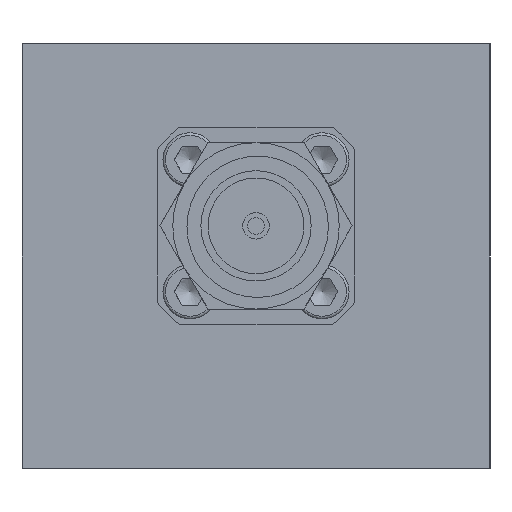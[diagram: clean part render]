
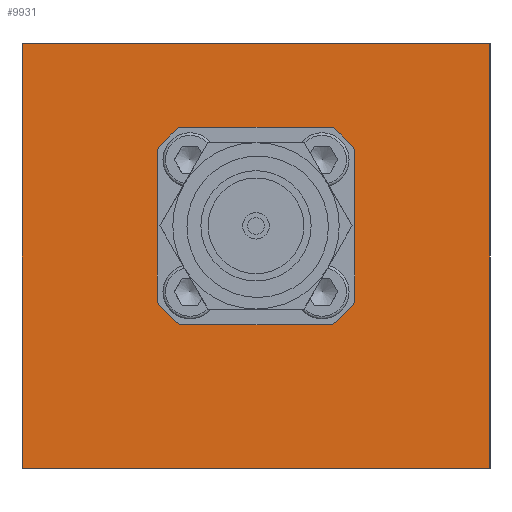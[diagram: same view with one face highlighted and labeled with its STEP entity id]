
A CAD part, left-side view. The second image highlights one B-rep face of the part: STEP entity #9931.
In plain terms, the highlighted planar face has unit normal (-1, 0, 0).
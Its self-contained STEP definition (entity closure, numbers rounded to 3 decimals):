
#330=CIRCLE('',#10451,6.);
#331=CIRCLE('',#10452,6.);
#332=CIRCLE('',#10453,6.);
#333=CIRCLE('',#10454,6.);
#636=ORIENTED_EDGE('',*,*,#2329,.F.);
#637=ORIENTED_EDGE('',*,*,#2330,.F.);
#638=ORIENTED_EDGE('',*,*,#2331,.F.);
#639=ORIENTED_EDGE('',*,*,#2332,.F.);
#640=ORIENTED_EDGE('',*,*,#2333,.F.);
#641=ORIENTED_EDGE('',*,*,#2334,.F.);
#642=ORIENTED_EDGE('',*,*,#2335,.F.);
#643=ORIENTED_EDGE('',*,*,#2336,.F.);
#644=ORIENTED_EDGE('',*,*,#2337,.F.);
#645=ORIENTED_EDGE('',*,*,#2338,.F.);
#646=ORIENTED_EDGE('',*,*,#2327,.T.);
#647=ORIENTED_EDGE('',*,*,#2321,.F.);
#2321=EDGE_CURVE('',#3170,#3171,#3817,.T.);
#2327=EDGE_CURVE('',#3176,#3171,#3819,.T.);
#2329=EDGE_CURVE('',#3177,#3178,#330,.T.);
#2330=EDGE_CURVE('',#3179,#3177,#3821,.T.);
#2331=EDGE_CURVE('',#3180,#3179,#331,.T.);
#2332=EDGE_CURVE('',#3181,#3180,#3822,.T.);
#2333=EDGE_CURVE('',#3182,#3181,#332,.T.);
#2334=EDGE_CURVE('',#3183,#3182,#3823,.T.);
#2335=EDGE_CURVE('',#3184,#3183,#333,.T.);
#2336=EDGE_CURVE('',#3178,#3184,#3824,.T.);
#2337=EDGE_CURVE('',#3185,#3170,#3825,.T.);
#2338=EDGE_CURVE('',#3176,#3185,#3826,.T.);
#3170=VERTEX_POINT('',#13278);
#3171=VERTEX_POINT('',#13280);
#3176=VERTEX_POINT('',#13292);
#3177=VERTEX_POINT('',#13296);
#3178=VERTEX_POINT('',#13297);
#3179=VERTEX_POINT('',#13299);
#3180=VERTEX_POINT('',#13301);
#3181=VERTEX_POINT('',#13303);
#3182=VERTEX_POINT('',#13305);
#3183=VERTEX_POINT('',#13307);
#3184=VERTEX_POINT('',#13309);
#3185=VERTEX_POINT('',#13312);
#3817=LINE('',#13279,#4325);
#3819=LINE('',#13291,#4327);
#3821=LINE('',#13298,#4329);
#3822=LINE('',#13302,#4330);
#3823=LINE('',#13306,#4331);
#3824=LINE('',#13310,#4332);
#3825=LINE('',#13311,#4333);
#3826=LINE('',#13313,#4334);
#4325=VECTOR('',#11245,1000.);
#4327=VECTOR('',#11257,1000.);
#4329=VECTOR('',#11263,1000.);
#4330=VECTOR('',#11266,1000.);
#4331=VECTOR('',#11269,1000.);
#4332=VECTOR('',#11272,1000.);
#4333=VECTOR('',#11273,1000.);
#4334=VECTOR('',#11274,1000.);
#4848=EDGE_LOOP('',(#636,#637,#638,#639,#640,#641,#642,#643));
#4849=EDGE_LOOP('',(#644,#645,#646,#647));
#5576=FACE_BOUND('',#4848,.T.);
#5577=FACE_BOUND('',#4849,.T.);
#6301=PLANE('',#10450);
#9931=ADVANCED_FACE('',(#5576,#5577),#6301,.T.);
#10450=AXIS2_PLACEMENT_3D('',#13294,#11259,#11260);
#10451=AXIS2_PLACEMENT_3D('',#13295,#11261,#11262);
#10452=AXIS2_PLACEMENT_3D('',#13300,#11264,#11265);
#10453=AXIS2_PLACEMENT_3D('',#13304,#11267,#11268);
#10454=AXIS2_PLACEMENT_3D('',#13308,#11270,#11271);
#11245=DIRECTION('',(0.,-1.,0.));
#11257=DIRECTION('',(0.,0.,1.));
#11259=DIRECTION('',(-1.,0.,0.));
#11260=DIRECTION('',(0.,0.,1.));
#11261=DIRECTION('',(-1.,0.,0.));
#11262=DIRECTION('',(0.,1.,0.));
#11263=DIRECTION('',(0.,1.,0.));
#11264=DIRECTION('',(-1.,0.,0.));
#11265=DIRECTION('',(0.,1.,0.));
#11266=DIRECTION('',(0.,0.,1.));
#11267=DIRECTION('',(-1.,0.,0.));
#11268=DIRECTION('',(0.,1.,0.));
#11269=DIRECTION('',(0.,-1.,0.));
#11270=DIRECTION('',(-1.,0.,0.));
#11271=DIRECTION('',(0.,1.,0.));
#11272=DIRECTION('',(0.,0.,-1.));
#11273=DIRECTION('',(0.,0.,1.));
#11274=DIRECTION('',(0.,1.,0.));
#13278=CARTESIAN_POINT('',(-13.95,11.25,0.));
#13279=CARTESIAN_POINT('',(-13.95,11.25,0.));
#13280=CARTESIAN_POINT('',(-13.95,-11.25,0.));
#13291=CARTESIAN_POINT('',(-13.95,-11.25,-17.5));
#13292=CARTESIAN_POINT('',(-13.95,-11.25,-20.4));
#13294=CARTESIAN_POINT('',(-13.95,11.25,-17.5));
#13295=CARTESIAN_POINT('',(-13.95,0.,-8.75));
#13296=CARTESIAN_POINT('',(-13.95,3.666,-4.));
#13297=CARTESIAN_POINT('',(-13.95,4.75,-5.084));
#13298=CARTESIAN_POINT('',(-13.95,-3.666,-4.));
#13299=CARTESIAN_POINT('',(-13.95,-3.666,-4.));
#13300=CARTESIAN_POINT('',(-13.95,0.,-8.75));
#13301=CARTESIAN_POINT('',(-13.95,-4.75,-5.084));
#13302=CARTESIAN_POINT('',(-13.95,-4.75,-12.416));
#13303=CARTESIAN_POINT('',(-13.95,-4.75,-12.416));
#13304=CARTESIAN_POINT('',(-13.95,0.,-8.75));
#13305=CARTESIAN_POINT('',(-13.95,-3.666,-13.5));
#13306=CARTESIAN_POINT('',(-13.95,3.666,-13.5));
#13307=CARTESIAN_POINT('',(-13.95,3.666,-13.5));
#13308=CARTESIAN_POINT('',(-13.95,0.,-8.75));
#13309=CARTESIAN_POINT('',(-13.95,4.75,-12.416));
#13310=CARTESIAN_POINT('',(-13.95,4.75,-5.084));
#13311=CARTESIAN_POINT('',(-13.95,11.25,-17.5));
#13312=CARTESIAN_POINT('',(-13.95,11.25,-20.4));
#13313=CARTESIAN_POINT('',(-13.95,-11.25,-20.4));
